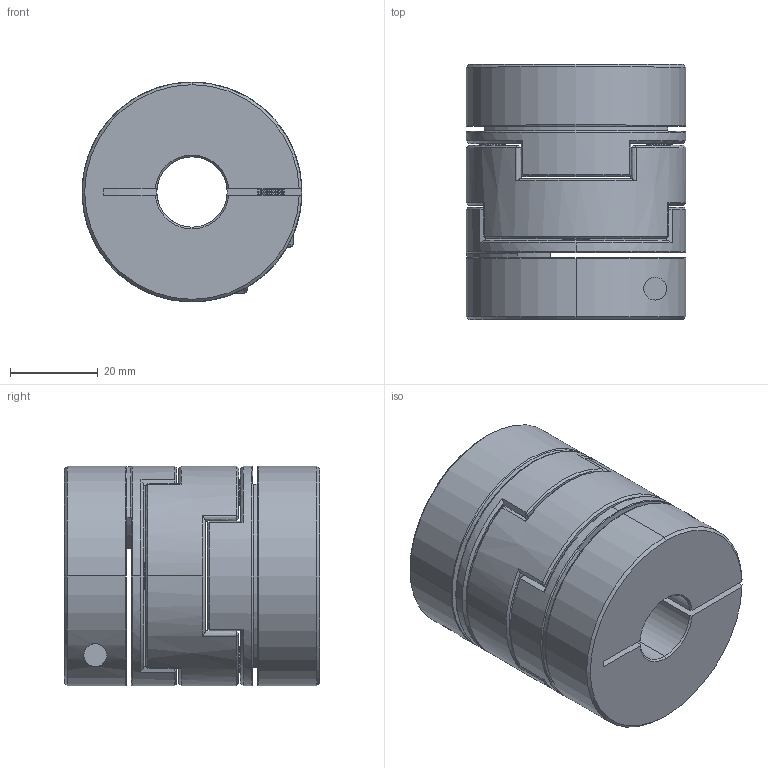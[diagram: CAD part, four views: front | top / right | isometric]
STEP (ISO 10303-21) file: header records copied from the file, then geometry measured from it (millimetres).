
FILE_DESCRIPTION (( 'STEP AP203' ), '1' );
FILE_NAME ('LZ-B-D50L58-16-18.STEP', '2021-10-29T08:11:22', ( '' ), ( '' ), 'SwSTEP 2.0', 'SolidWorks 2018', '' );
FILE_SCHEMA (( 'CONFIG_CONTROL_DESIGN' ));
Length unit declared in the file: millimetre
Products named in the file (1): LZ-B-D50L58-16-18
Bounding box: 50 x 58 x 50 mm (x, y, z)
Volume: 91899 mm3; surface area: 30016.6 mm2
Topology: 1 solids, 27 shells, 560 faces, 1364 edges, 810 vertices
Faces by surface type: cone 252, cylinder 160, plane 90, bspline 54, torus 4
Entity records: 17422 total; most frequent: CARTESIAN_POINT 4342, DIRECTION 2782, ORIENTED_EDGE 2720, EDGE_CURVE 1360, AXIS2_PLACEMENT_3D 1123, VERTEX_POINT 810, CIRCLE 616, EDGE_LOOP 594
